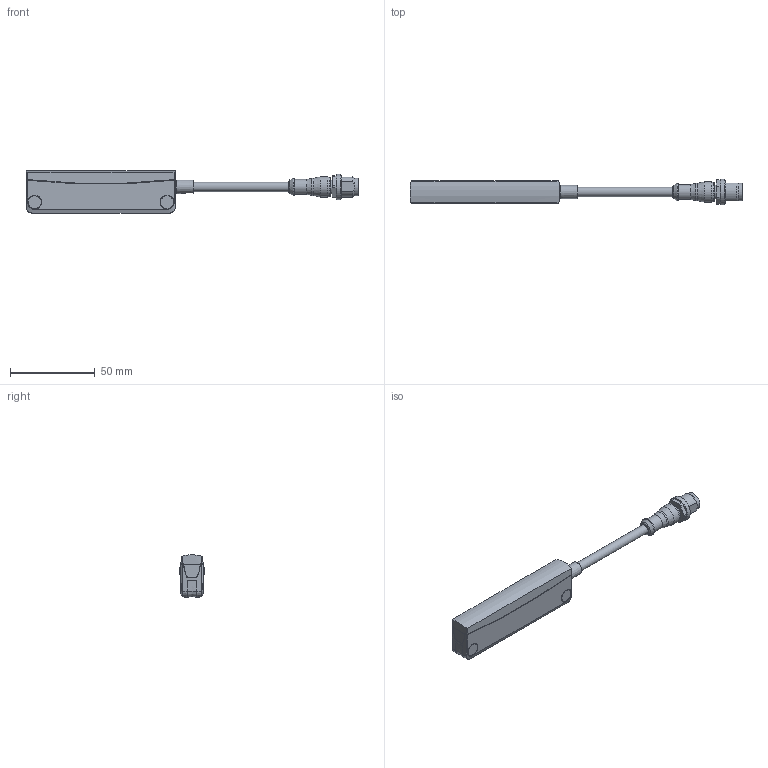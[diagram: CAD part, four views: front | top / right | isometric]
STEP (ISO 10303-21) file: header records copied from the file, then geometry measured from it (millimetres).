
FILE_DESCRIPTION(/* description */ ('Katalogmodell Elobau'),/* implementation_level */ '2;1');
FILE_NAME(/* name */ 'Katalogdaten.stp',/* time_stamp */ '2014-12-08T15:16:22+01:00',/* author */ ('Elobau GmbH & Co. KG'),/* organization */ ('Elobau GmbH & Co. KG'),/* preprocessor_version */ 'ST-DEVELOPER v15',/* originating_system */ 'SIEMENS PLM Software NX 8.5',/* authorisation */ '');
FILE_SCHEMA (('AUTOMOTIVE_DESIGN { 1 0 10303 214 3 1 1 1 }'));
Length unit declared in the file: millimetre
Products named in the file (1): 165MSK00.0G_A
Bounding box: 195.7 x 15 x 24.93 mm (x, y, z)
Volume: 32142.4 mm3; surface area: 11318.5 mm2
Topology: 5 solids, 5 shells, 169 faces, 401 edges, 262 vertices
Faces by surface type: plane 54, cylinder 51, bspline 40, cone 18, torus 4, sphere 2
Full cylindrical faces by diameter (mm): 1 x4, 4.5 x2, 5.5 x1, 7.6 x4, 7.9 x1, 8.2 x4, 8.3 x1, 8.4 x1, 8.8 x1, 10.2 x1, 10.5 x2, 12 x1, 15 x1
Entity records: 6393 total; most frequent: CARTESIAN_POINT 2835, ORIENTED_EDGE 696, DIRECTION 566, EDGE_CURVE 348, AXIS2_PLACEMENT_3D 255, VERTEX_POINT 253, EDGE_LOOP 237, ADVANCED_FACE 169
